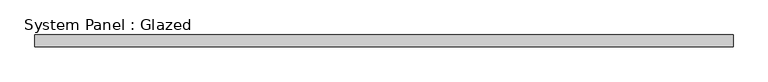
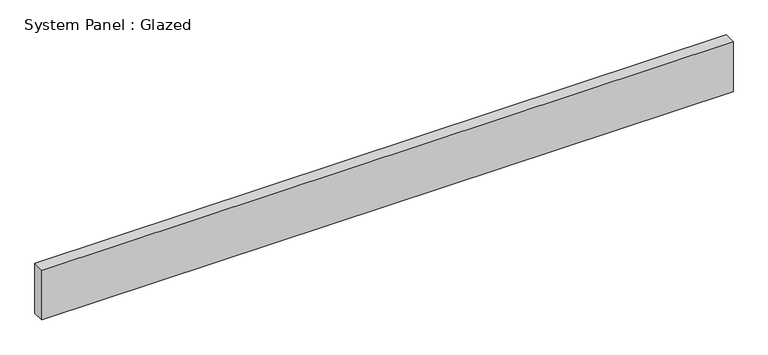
"""IFC4 building model written with IfcOpenShell, lengths in millimetres: plate geometry, System Panel : Glazed."""

from ifc_helpers import new_model, si_unit, origin, origin_with_axes, place, context, project, spatial, polyline, outline, extrude, source, transform, mapped, element, save


def system_panel_glazed_036eda8b(model_context):
    return source(origin(), model_context, "Body", "SweptSolid", [
        extrude(outline(polyline([(749.3, -44.45), (-749.3, -44.45), (-749.3, -19.05), (749.3, -19.05), (749.3, -44.45)])), origin_with_axes(), (0.0, 0.0, 1.0), 114.3),
    ])


if __name__ == "__main__":
    model = new_model("IFC4")
    model_context = context("Model", 3, world=origin())
    ifc_project = project(units=[si_unit("LENGTHUNIT", "METRE", prefix="MILLI")], contexts=[model_context])
    site = spatial("IfcSite", under=ifc_project)
    building = spatial("IfcBuilding", under=site)
    placement = place(None, origin())
    system_panel_glazed_shape = system_panel_glazed_036eda8b(model_context)
    element("IfcPlate", 1, ObjectType="System Panel : Glazed", at=placement, inside=building, context=model_context, shape_type="MappedRepresentation", body=[
        mapped(system_panel_glazed_shape, transform((0.0, 0.0, 0.0), x_axis=(1.0, 0.0, 0.0), y_axis=(0.0, 1.0, 0.0), z_axis=(0.0, 0.0, 1.0))),
    ])
    save(model, "model.ifc")
